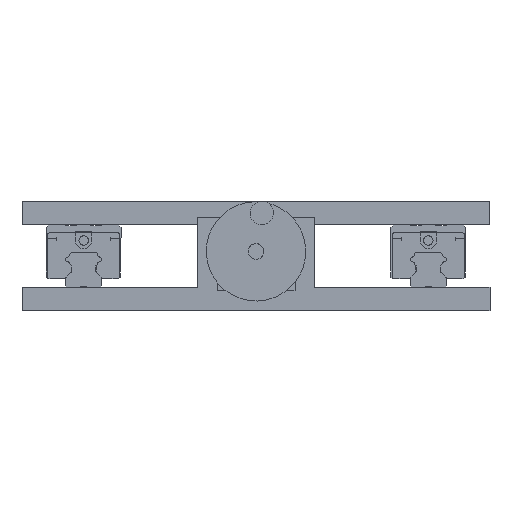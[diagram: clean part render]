
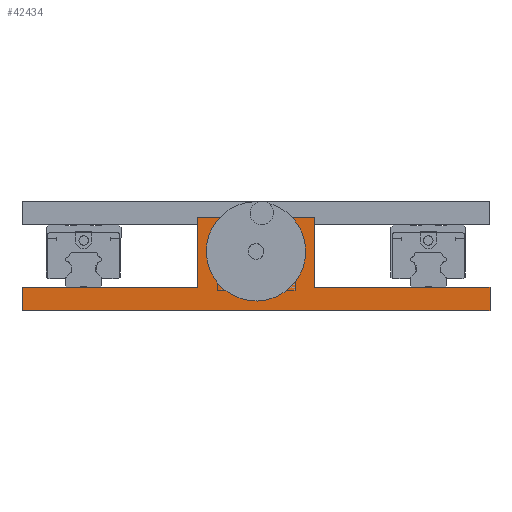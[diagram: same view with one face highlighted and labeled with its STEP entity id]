
A CAD part, front view. The second image highlights one B-rep face of the part: STEP entity #42434.
In plain terms, the highlighted planar face has unit normal (0, -1, 0).
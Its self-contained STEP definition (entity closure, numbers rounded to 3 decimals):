
#414 = CARTESIAN_POINT ( 'NONE',  ( 0., -566.5, 38. ) ) ;
#3091 = CARTESIAN_POINT ( 'NONE',  ( 150., -566.5, 15. ) ) ;
#5003 = EDGE_CURVE ( 'NONE', #32339, #11517, #27183, .T. ) ;
#5707 = EDGE_CURVE ( 'NONE', #46119, #47854, #14018, .T. ) ;
#7339 = VECTOR ( 'NONE', #19507, 1000. ) ;
#8912 = DIRECTION ( 'NONE',  ( 1., 0., 0. ) ) ;
#9263 = EDGE_CURVE ( 'NONE', #45635, #11517, #33463, .T. ) ;
#10024 = DIRECTION ( 'NONE',  ( 0., 1., 0. ) ) ;
#11517 = VERTEX_POINT ( 'NONE', #34478 ) ;
#12151 = VECTOR ( 'NONE', #64373, 1000. ) ;
#12550 = VECTOR ( 'NONE', #14178, 1000. ) ;
#13607 = ORIENTED_EDGE ( 'NONE', *, *, #42872, .F. ) ;
#14018 = CIRCLE ( 'NONE', #32007, 5. ) ;
#14178 = DIRECTION ( 'NONE',  ( 0., 0., -1. ) ) ;
#17979 = CARTESIAN_POINT ( 'NONE',  ( -150., -566.5, 15. ) ) ;
#18692 = ORIENTED_EDGE ( 'NONE', *, *, #77519, .T. ) ;
#19507 = DIRECTION ( 'NONE',  ( 1., 0., 0. ) ) ;
#20761 = LINE ( 'NONE', #42014, #71238 ) ;
#20930 = CARTESIAN_POINT ( 'NONE',  ( -37.5, -566.5, 60. ) ) ;
#21265 = ORIENTED_EDGE ( 'NONE', *, *, #9263, .F. ) ;
#22156 = DIRECTION ( 'NONE',  ( 0., 0., 1. ) ) ;
#24932 = DIRECTION ( 'NONE',  ( 0., -1., 0. ) ) ;
#25401 = CARTESIAN_POINT ( 'NONE',  ( -37.5, -566.5, 60. ) ) ;
#25671 = EDGE_CURVE ( 'NONE', #71679, #70550, #33142, .T. ) ;
#27183 = LINE ( 'NONE', #77155, #53473 ) ;
#27401 = EDGE_LOOP ( 'NONE', ( #55081, #46874 ) ) ;
#28066 = DIRECTION ( 'NONE',  ( 0., -1., 0. ) ) ;
#28217 = PLANE ( 'NONE',  #62940 ) ;
#29093 = ORIENTED_EDGE ( 'NONE', *, *, #73613, .T. ) ;
#29277 = DIRECTION ( 'NONE',  ( 0., 0., 1. ) ) ;
#30460 = ORIENTED_EDGE ( 'NONE', *, *, #5003, .T. ) ;
#31126 = DIRECTION ( 'NONE',  ( 0., 0., 1. ) ) ;
#31187 = CARTESIAN_POINT ( 'NONE',  ( 37.5, -566.5, 60. ) ) ;
#32007 = AXIS2_PLACEMENT_3D ( 'NONE', #41140, #28066, #22156 ) ;
#32339 = VERTEX_POINT ( 'NONE', #47991 ) ;
#33142 = LINE ( 'NONE', #31187, #45786 ) ;
#33463 = LINE ( 'NONE', #67072, #56796 ) ;
#34478 = CARTESIAN_POINT ( 'NONE',  ( 150., -566.5, 0. ) ) ;
#39469 = LINE ( 'NONE', #25401, #7339 ) ;
#39516 = CARTESIAN_POINT ( 'NONE',  ( 0., -566.5, 33. ) ) ;
#41140 = CARTESIAN_POINT ( 'NONE',  ( 0., -566.5, 38. ) ) ;
#42014 = CARTESIAN_POINT ( 'NONE',  ( -150., -566.5, 15. ) ) ;
#42156 = VERTEX_POINT ( 'NONE', #44010 ) ;
#42434 = ADVANCED_FACE ( 'NONE', ( #48067, #56843 ), #28217, .F. ) ;
#42872 = EDGE_CURVE ( 'NONE', #70550, #45635, #20761, .T. ) ;
#44010 = CARTESIAN_POINT ( 'NONE',  ( -150., -566.5, 15. ) ) ;
#45635 = VERTEX_POINT ( 'NONE', #3091 ) ;
#45786 = VECTOR ( 'NONE', #56529, 1000. ) ;
#46119 = VERTEX_POINT ( 'NONE', #39516 ) ;
#46194 = CARTESIAN_POINT ( 'NONE',  ( 37.5, -566.5, 15. ) ) ;
#46270 = CARTESIAN_POINT ( 'NONE',  ( 37.5, -566.5, 60. ) ) ;
#46874 = ORIENTED_EDGE ( 'NONE', *, *, #5707, .F. ) ;
#47479 = ORIENTED_EDGE ( 'NONE', *, *, #53737, .F. ) ;
#47854 = VERTEX_POINT ( 'NONE', #64060 ) ;
#47991 = CARTESIAN_POINT ( 'NONE',  ( -150., -566.5, 0. ) ) ;
#48067 = FACE_BOUND ( 'NONE', #27401, .T. ) ;
#48191 = VECTOR ( 'NONE', #48597, 1000. ) ;
#48597 = DIRECTION ( 'NONE',  ( 1., 0., 0. ) ) ;
#51303 = CARTESIAN_POINT ( 'NONE',  ( -150., -566.5, 15. ) ) ;
#51891 = AXIS2_PLACEMENT_3D ( 'NONE', #414, #24932, #31126 ) ;
#52722 = CARTESIAN_POINT ( 'NONE',  ( -37.5, -566.5, 60. ) ) ;
#52755 = EDGE_CURVE ( 'NONE', #55623, #71679, #39469, .T. ) ;
#53473 = VECTOR ( 'NONE', #8912, 1000. ) ;
#53737 = EDGE_CURVE ( 'NONE', #42156, #54480, #54079, .T. ) ;
#54079 = LINE ( 'NONE', #17979, #48191 ) ;
#54480 = VERTEX_POINT ( 'NONE', #63000 ) ;
#55081 = ORIENTED_EDGE ( 'NONE', *, *, #60126, .F. ) ;
#55623 = VERTEX_POINT ( 'NONE', #52722 ) ;
#56285 = LINE ( 'NONE', #51303, #12550 ) ;
#56529 = DIRECTION ( 'NONE',  ( 0., 0., -1. ) ) ;
#56796 = VECTOR ( 'NONE', #61082, 1000. ) ;
#56843 = FACE_OUTER_BOUND ( 'NONE', #75765, .T. ) ;
#56906 = CIRCLE ( 'NONE', #51891, 5. ) ;
#59542 = CARTESIAN_POINT ( 'NONE',  ( -150., -566.5, 15. ) ) ;
#59805 = LINE ( 'NONE', #20930, #12151 ) ;
#60126 = EDGE_CURVE ( 'NONE', #47854, #46119, #56906, .T. ) ;
#61082 = DIRECTION ( 'NONE',  ( 0., 0., -1. ) ) ;
#62215 = ORIENTED_EDGE ( 'NONE', *, *, #25671, .F. ) ;
#62940 = AXIS2_PLACEMENT_3D ( 'NONE', #59542, #10024, #29277 ) ;
#63000 = CARTESIAN_POINT ( 'NONE',  ( -37.5, -566.5, 15. ) ) ;
#64060 = CARTESIAN_POINT ( 'NONE',  ( 0., -566.5, 43. ) ) ;
#64373 = DIRECTION ( 'NONE',  ( 0., 0., -1. ) ) ;
#67072 = CARTESIAN_POINT ( 'NONE',  ( 150., -566.5, 15. ) ) ;
#70550 = VERTEX_POINT ( 'NONE', #46194 ) ;
#71238 = VECTOR ( 'NONE', #72466, 1000. ) ;
#71679 = VERTEX_POINT ( 'NONE', #46270 ) ;
#72081 = ORIENTED_EDGE ( 'NONE', *, *, #52755, .F. ) ;
#72466 = DIRECTION ( 'NONE',  ( 1., 0., 0. ) ) ;
#73613 = EDGE_CURVE ( 'NONE', #55623, #54480, #59805, .T. ) ;
#75765 = EDGE_LOOP ( 'NONE', ( #30460, #21265, #13607, #62215, #72081, #29093, #47479, #18692 ) ) ;
#77155 = CARTESIAN_POINT ( 'NONE',  ( -150., -566.5, 0. ) ) ;
#77519 = EDGE_CURVE ( 'NONE', #42156, #32339, #56285, .T. ) ;
